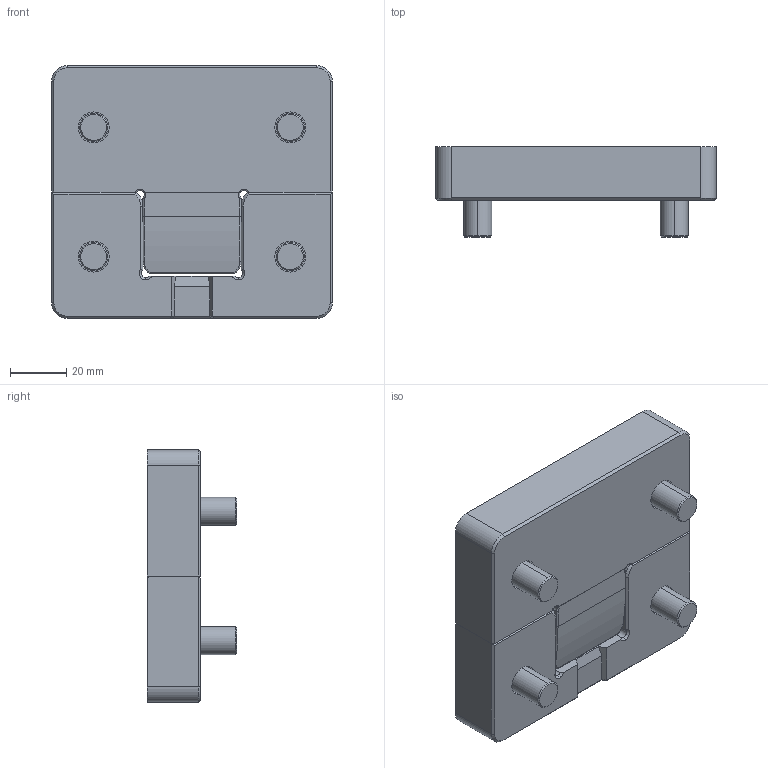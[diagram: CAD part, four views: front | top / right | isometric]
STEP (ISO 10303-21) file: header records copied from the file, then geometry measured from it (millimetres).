
FILE_DESCRIPTION (( 'STEP AP214' ), '1' );
FILE_NAME ('SLM19X100Z.STEP', '2012-06-04T13:56:29', ( 'Progressive Components' ), ( 'Progressive Components' ), 'SwSTEP 2.0', 'SolidWorks 2010', '' );
FILE_SCHEMA (( 'AUTOMOTIVE_DESIGN' ));
Length unit declared in the file: millimetre
Products named in the file (4): SLM19X100Z MALE; SLM19X100Z FEMALE; M10_X_20_SHCS; SLM19X100Z
Assembly tree (6 placements, depth 2):
  SLM19X100Z
    M10_X_20_SHCS  x4
    SLM19X100Z MALE
    SLM19X100Z FEMALE
Bounding box: 100 x 32 x 90 mm (x, y, z)
Volume: 166307.4 mm3; surface area: 40185.8 mm2
Topology: 6 solids, 6 shells, 499 faces, 1057 edges, 682 vertices
Faces by surface type: cylinder 255, plane 190, cone 38, torus 14, bspline 2
Entity records: 12547 total; most frequent: CARTESIAN_POINT 2437, DIRECTION 2301, ORIENTED_EDGE 1862, AXIS2_PLACEMENT_3D 962, EDGE_CURVE 931, VERTEX_POINT 604, EDGE_LOOP 553, CIRCLE 516
